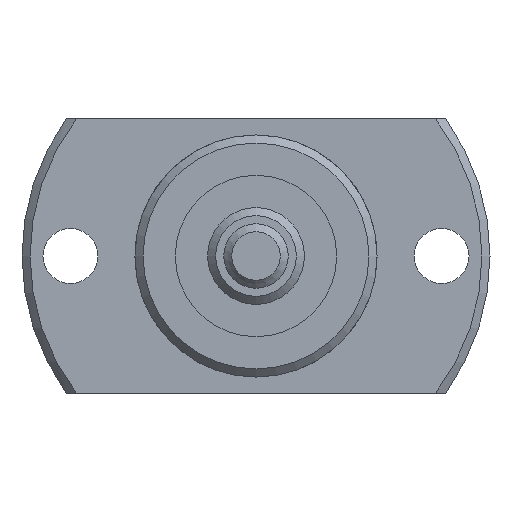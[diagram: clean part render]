
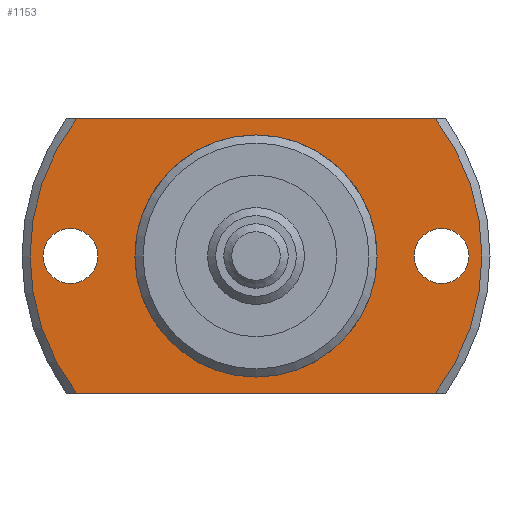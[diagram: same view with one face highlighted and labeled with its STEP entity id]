
A CAD part, left-side view. The second image highlights one B-rep face of the part: STEP entity #1153.
In plain terms, the highlighted planar face has unit normal (-1, 0, 0).
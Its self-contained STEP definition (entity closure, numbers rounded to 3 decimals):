
#111=LINE('',#1939,#169);
#112=LINE('',#1943,#170);
#169=VECTOR('',#1558,1000.);
#170=VECTOR('',#1561,1000.);
#309=ORIENTED_EDGE('',*,*,#573,.T.);
#310=ORIENTED_EDGE('',*,*,#574,.T.);
#311=ORIENTED_EDGE('',*,*,#562,.F.);
#312=ORIENTED_EDGE('',*,*,#575,.T.);
#313=ORIENTED_EDGE('',*,*,#576,.F.);
#314=ORIENTED_EDGE('',*,*,#577,.T.);
#315=ORIENTED_EDGE('',*,*,#556,.T.);
#556=EDGE_CURVE('',#701,#701,#798,.T.);
#562=EDGE_CURVE('',#706,#707,#801,.T.);
#573=EDGE_CURVE('',#716,#716,#807,.T.);
#574=EDGE_CURVE('',#717,#717,#808,.T.);
#575=EDGE_CURVE('',#706,#718,#111,.T.);
#576=EDGE_CURVE('',#719,#718,#809,.T.);
#577=EDGE_CURVE('',#719,#707,#112,.T.);
#701=VERTEX_POINT('',#1886);
#706=VERTEX_POINT('',#1900);
#707=VERTEX_POINT('',#1902);
#716=VERTEX_POINT('',#1936);
#717=VERTEX_POINT('',#1938);
#718=VERTEX_POINT('',#1940);
#719=VERTEX_POINT('',#1942);
#798=CIRCLE('',#1284,7.3);
#801=CIRCLE('',#1288,14.);
#807=CIRCLE('',#1299,1.7);
#808=CIRCLE('',#1300,1.7);
#809=CIRCLE('',#1301,14.);
#899=EDGE_LOOP('',(#309));
#900=EDGE_LOOP('',(#310));
#901=EDGE_LOOP('',(#311,#312,#313,#314));
#902=EDGE_LOOP('',(#315));
#1019=FACE_BOUND('',#899,.T.);
#1020=FACE_BOUND('',#900,.T.);
#1021=FACE_BOUND('',#901,.T.);
#1022=FACE_BOUND('',#902,.T.);
#1095=PLANE('',#1298);
#1153=ADVANCED_FACE('',(#1019,#1020,#1021,#1022),#1095,.F.);
#1284=AXIS2_PLACEMENT_3D('',#1885,#1520,#1521);
#1288=AXIS2_PLACEMENT_3D('',#1901,#1530,#1531);
#1298=AXIS2_PLACEMENT_3D('',#1934,#1552,#1553);
#1299=AXIS2_PLACEMENT_3D('',#1935,#1554,#1555);
#1300=AXIS2_PLACEMENT_3D('',#1937,#1556,#1557);
#1301=AXIS2_PLACEMENT_3D('',#1941,#1559,#1560);
#1520=DIRECTION('',(1.,0.,0.));
#1521=DIRECTION('',(0.,0.,-1.));
#1530=DIRECTION('',(1.,0.,0.));
#1531=DIRECTION('',(0.,0.,-1.));
#1552=DIRECTION('',(1.,0.,0.));
#1553=DIRECTION('',(0.,0.,-1.));
#1554=DIRECTION('',(1.,0.,0.));
#1555=DIRECTION('',(0.,0.,-1.));
#1556=DIRECTION('',(1.,0.,0.));
#1557=DIRECTION('',(0.,0.,-1.));
#1558=DIRECTION('',(0.,-1.,0.));
#1559=DIRECTION('',(1.,0.,0.));
#1560=DIRECTION('',(0.,0.,-1.));
#1561=DIRECTION('',(0.,1.,0.));
#1885=CARTESIAN_POINT('',(14.,0.,0.));
#1886=CARTESIAN_POINT('',(14.,0.,-7.3));
#1900=CARTESIAN_POINT('',(14.,11.124,-8.5));
#1901=CARTESIAN_POINT('',(14.,0.,0.));
#1902=CARTESIAN_POINT('',(14.,11.124,8.5));
#1934=CARTESIAN_POINT('',(14.,7.3,0.));
#1935=CARTESIAN_POINT('',(14.,-11.5,0.));
#1936=CARTESIAN_POINT('',(14.,-11.5,-1.7));
#1937=CARTESIAN_POINT('',(14.,11.5,0.));
#1938=CARTESIAN_POINT('',(14.,11.5,-1.7));
#1939=CARTESIAN_POINT('',(14.,7.3,-8.5));
#1940=CARTESIAN_POINT('',(14.,-11.124,-8.5));
#1941=CARTESIAN_POINT('',(14.,0.,0.));
#1942=CARTESIAN_POINT('',(14.,-11.124,8.5));
#1943=CARTESIAN_POINT('',(14.,7.3,8.5));
